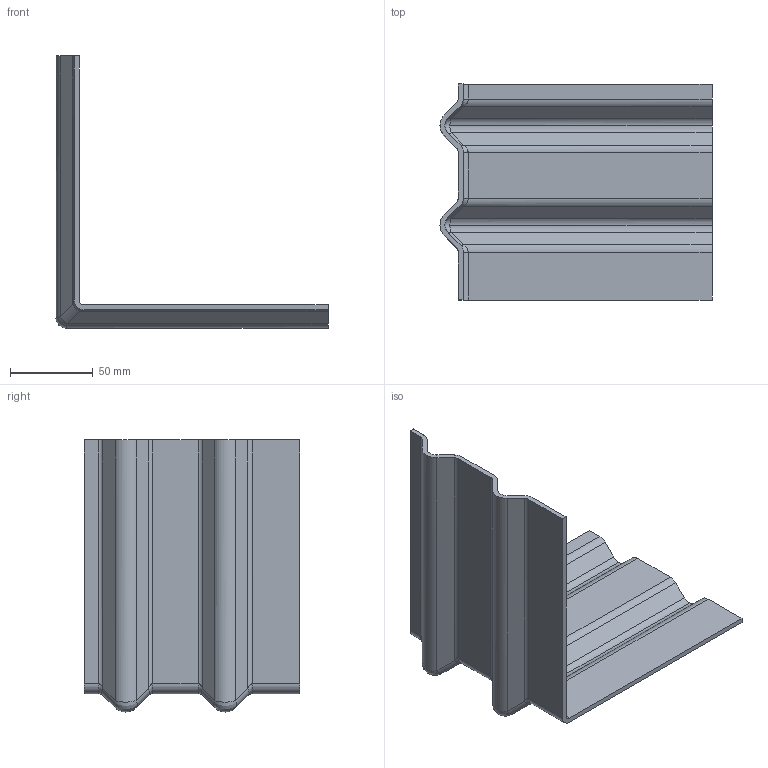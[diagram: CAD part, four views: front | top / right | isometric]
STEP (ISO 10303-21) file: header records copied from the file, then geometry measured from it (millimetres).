
FILE_DESCRIPTION (( 'STEP AP203' ), '1' );
FILE_NAME ('Sparklist H 130 ytterhörn.STEP', '2014-09-29T05:22:32', ( '' ), ( '' ), 'SwSTEP 2.0', 'SolidWorks 2014', '' );
FILE_SCHEMA (( 'CONFIG_CONTROL_DESIGN' ));
Length unit declared in the file: millimetre
Products named in the file (1): Sparklist H 130 ytterhörn
Bounding box: 164 x 130 x 164 mm (x, y, z)
Volume: 134940.5 mm3; surface area: 92643.2 mm2
Topology: 1 solids, 1 shells, 86 faces, 204 edges, 120 vertices
Faces by surface type: cylinder 42, plane 32, bspline 12
Entity records: 2989 total; most frequent: CARTESIAN_POINT 1035, ORIENTED_EDGE 408, DIRECTION 382, EDGE_CURVE 204, AXIS2_PLACEMENT_3D 131, VECTOR 120, VERTEX_POINT 120, LINE 120
